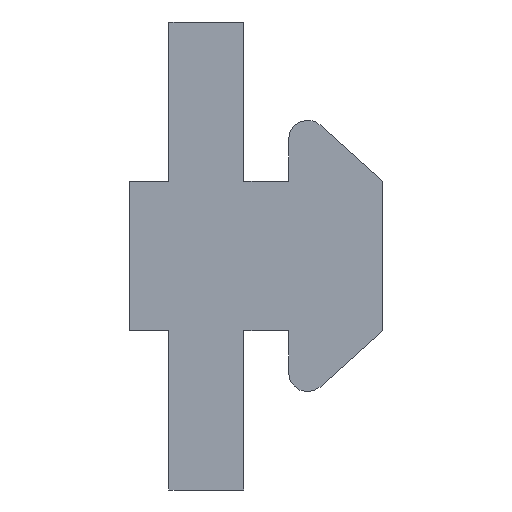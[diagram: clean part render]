
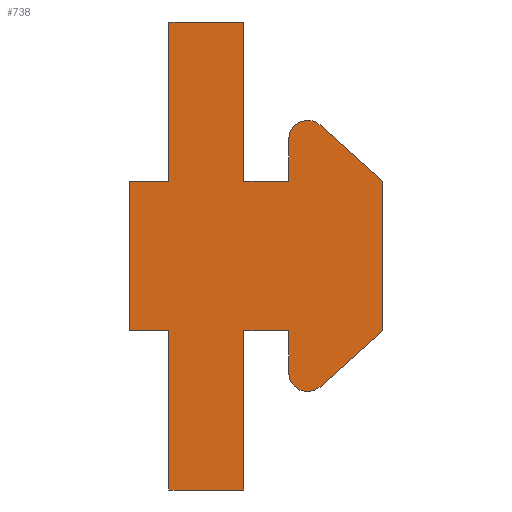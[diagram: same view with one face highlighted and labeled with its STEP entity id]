
A CAD part, left-side view. The second image highlights one B-rep face of the part: STEP entity #738.
In plain terms, the highlighted planar face has unit normal (-1, 0, 0).
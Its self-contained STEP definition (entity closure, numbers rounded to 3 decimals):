
#3 = ORIENTED_EDGE ( 'NONE', *, *, #319, .F. ) ;
#6 = VERTEX_POINT ( 'NONE', #583 ) ;
#14 = VECTOR ( 'NONE', #81, 1000. ) ;
#22 = DIRECTION ( 'NONE',  ( 0., -1., 0. ) ) ;
#25 = LINE ( 'NONE', #569, #374 ) ;
#32 = DIRECTION ( 'NONE',  ( 0., 0., 1. ) ) ;
#33 = VERTEX_POINT ( 'NONE', #667 ) ;
#43 = VERTEX_POINT ( 'NONE', #55 ) ;
#46 = DIRECTION ( 'NONE',  ( 0., 0., -1. ) ) ;
#50 = ORIENTED_EDGE ( 'NONE', *, *, #390, .F. ) ;
#55 = CARTESIAN_POINT ( 'NONE',  ( -960., -24., 12.5 ) ) ;
#60 = LINE ( 'NONE', #690, #541 ) ;
#64 = EDGE_CURVE ( 'NONE', #576, #446, #118, .T. ) ;
#81 = DIRECTION ( 'NONE',  ( 0., 0., 1. ) ) ;
#82 = ORIENTED_EDGE ( 'NONE', *, *, #636, .F. ) ;
#84 = DIRECTION ( 'NONE',  ( 0., 0., -1. ) ) ;
#87 = EDGE_CURVE ( 'NONE', #150, #576, #258, .T. ) ;
#93 = ORIENTED_EDGE ( 'NONE', *, *, #227, .F. ) ;
#101 = CARTESIAN_POINT ( 'NONE',  ( -960., -20., 12.5 ) ) ;
#104 = CARTESIAN_POINT ( 'NONE',  ( -960., -20., -4. ) ) ;
#105 = CARTESIAN_POINT ( 'NONE',  ( -960., -28.069, 6.998 ) ) ;
#109 = VERTEX_POINT ( 'NONE', #191 ) ;
#118 = LINE ( 'NONE', #340, #215 ) ;
#131 = CARTESIAN_POINT ( 'NONE',  ( -960., -24., -12.5 ) ) ;
#132 = DIRECTION ( 'NONE',  ( 0., 1., 0. ) ) ;
#145 = ORIENTED_EDGE ( 'NONE', *, *, #571, .F. ) ;
#146 = EDGE_CURVE ( 'NONE', #189, #109, #516, .T. ) ;
#147 = DIRECTION ( 'NONE',  ( 0., 0.743, -0.669 ) ) ;
#148 = CARTESIAN_POINT ( 'NONE',  ( -960., -26.4, -6.255 ) ) ;
#150 = VERTEX_POINT ( 'NONE', #414 ) ;
#161 = ORIENTED_EDGE ( 'NONE', *, *, #351, .F. ) ;
#162 = VECTOR ( 'NONE', #452, 1000. ) ;
#166 = ORIENTED_EDGE ( 'NONE', *, *, #389, .F. ) ;
#173 = DIRECTION ( 'NONE',  ( 1., 0., 0. ) ) ;
#179 = VERTEX_POINT ( 'NONE', #362 ) ;
#188 = VERTEX_POINT ( 'NONE', #148 ) ;
#189 = VERTEX_POINT ( 'NONE', #468 ) ;
#191 = CARTESIAN_POINT ( 'NONE',  ( -960., -20., 12.5 ) ) ;
#193 = ORIENTED_EDGE ( 'NONE', *, *, #259, .F. ) ;
#199 = VECTOR ( 'NONE', #262, 1000. ) ;
#214 = VERTEX_POINT ( 'NONE', #104 ) ;
#215 = VECTOR ( 'NONE', #619, 1000. ) ;
#220 = ORIENTED_EDGE ( 'NONE', *, *, #491, .F. ) ;
#222 = EDGE_CURVE ( 'NONE', #228, #33, #504, .T. ) ;
#227 = EDGE_CURVE ( 'NONE', #214, #697, #373, .T. ) ;
#228 = VERTEX_POINT ( 'NONE', #523 ) ;
#236 = EDGE_CURVE ( 'NONE', #577, #393, #281, .T. ) ;
#238 = LINE ( 'NONE', #341, #14 ) ;
#240 = CARTESIAN_POINT ( 'NONE',  ( -960., -24., -4. ) ) ;
#243 = VECTOR ( 'NONE', #350, 1000. ) ;
#244 = AXIS2_PLACEMENT_3D ( 'NONE', #402, #469, #280 ) ;
#251 = DIRECTION ( 'NONE',  ( 0., 0., -1. ) ) ;
#258 = LINE ( 'NONE', #497, #199 ) ;
#259 = EDGE_CURVE ( 'NONE', #43, #304, #638, .T. ) ;
#262 = DIRECTION ( 'NONE',  ( 0., 0., -1. ) ) ;
#275 = LINE ( 'NONE', #305, #286 ) ;
#280 = DIRECTION ( 'NONE',  ( 0., 0., 1. ) ) ;
#281 = LINE ( 'NONE', #723, #722 ) ;
#285 = DIRECTION ( 'NONE',  ( 0., 0., 1. ) ) ;
#286 = VECTOR ( 'NONE', #22, 1000. ) ;
#287 = EDGE_CURVE ( 'NONE', #304, #577, #275, .T. ) ;
#288 = DIRECTION ( 'NONE',  ( 0., 0., -1. ) ) ;
#294 = EDGE_CURVE ( 'NONE', #6, #425, #60, .T. ) ;
#302 = LINE ( 'NONE', #663, #736 ) ;
#304 = VERTEX_POINT ( 'NONE', #709 ) ;
#305 = CARTESIAN_POINT ( 'NONE',  ( -960., -24., 4. ) ) ;
#310 = CARTESIAN_POINT ( 'NONE',  ( -960., -17.9, 4. ) ) ;
#313 = CARTESIAN_POINT ( 'NONE',  ( -960., -26.4, -4. ) ) ;
#319 = EDGE_CURVE ( 'NONE', #179, #6, #25, .T. ) ;
#332 = DIRECTION ( 'NONE',  ( 0., 0., 1. ) ) ;
#335 = DIRECTION ( 'NONE',  ( 0., 0., 1. ) ) ;
#336 = CIRCLE ( 'NONE', #588, 1. ) ;
#340 = CARTESIAN_POINT ( 'NONE',  ( -960., -20., -12.5 ) ) ;
#341 = CARTESIAN_POINT ( 'NONE',  ( -960., -20., -4. ) ) ;
#342 = ORIENTED_EDGE ( 'NONE', *, *, #287, .F. ) ;
#348 = DIRECTION ( 'NONE',  ( 0., -1., 0. ) ) ;
#350 = DIRECTION ( 'NONE',  ( 0., 1., 0. ) ) ;
#351 = EDGE_CURVE ( 'NONE', #33, #179, #570, .T. ) ;
#352 = VERTEX_POINT ( 'NONE', #310 ) ;
#357 = CARTESIAN_POINT ( 'NONE',  ( -960., -17.9, 4. ) ) ;
#359 = EDGE_LOOP ( 'NONE', ( #93, #82, #388, #589, #508, #50, #166, #430, #3, #161, #546, #145, #462, #342, #193, #574, #614, #705, #220 ) ) ;
#362 = CARTESIAN_POINT ( 'NONE',  ( -960., -31.4, 4. ) ) ;
#366 = CARTESIAN_POINT ( 'NONE',  ( -960., -26.4, 6.255 ) ) ;
#373 = LINE ( 'NONE', #692, #243 ) ;
#374 = VECTOR ( 'NONE', #84, 1000. ) ;
#379 = AXIS2_PLACEMENT_3D ( 'NONE', #698, #440, #285 ) ;
#388 = ORIENTED_EDGE ( 'NONE', *, *, #64, .F. ) ;
#389 = EDGE_CURVE ( 'NONE', #425, #188, #336, .T. ) ;
#390 = EDGE_CURVE ( 'NONE', #188, #607, #604, .T. ) ;
#393 = VERTEX_POINT ( 'NONE', #366 ) ;
#402 = CARTESIAN_POINT ( 'NONE',  ( -960., -27.4, 6.255 ) ) ;
#404 = CIRCLE ( 'NONE', #244, 1. ) ;
#407 = VECTOR ( 'NONE', #620, 1000. ) ;
#411 = DIRECTION ( 'NONE',  ( 0., -1., 0. ) ) ;
#414 = CARTESIAN_POINT ( 'NONE',  ( -960., -24., -4. ) ) ;
#418 = DIRECTION ( 'NONE',  ( 1., 0., 0. ) ) ;
#425 = VERTEX_POINT ( 'NONE', #587 ) ;
#428 = AXIS2_PLACEMENT_3D ( 'NONE', #714, #418, #251 ) ;
#430 = ORIENTED_EDGE ( 'NONE', *, *, #294, .F. ) ;
#440 = DIRECTION ( 'NONE',  ( 1., 0., 0. ) ) ;
#445 = CARTESIAN_POINT ( 'NONE',  ( -960., -24., 12.5 ) ) ;
#446 = VERTEX_POINT ( 'NONE', #539 ) ;
#448 = VECTOR ( 'NONE', #132, 1000. ) ;
#452 = DIRECTION ( 'NONE',  ( 0., -0.743, -0.669 ) ) ;
#462 = ORIENTED_EDGE ( 'NONE', *, *, #236, .F. ) ;
#468 = CARTESIAN_POINT ( 'NONE',  ( -960., -20., 4. ) ) ;
#469 = DIRECTION ( 'NONE',  ( 1., 0., 0. ) ) ;
#489 = CARTESIAN_POINT ( 'NONE',  ( -960., -20., 4. ) ) ;
#491 = EDGE_CURVE ( 'NONE', #697, #352, #550, .T. ) ;
#497 = CARTESIAN_POINT ( 'NONE',  ( -960., -24., -12.5 ) ) ;
#504 = CIRCLE ( 'NONE', #379, 1. ) ;
#507 = CARTESIAN_POINT ( 'NONE',  ( -960., -26.4, -4. ) ) ;
#508 = ORIENTED_EDGE ( 'NONE', *, *, #728, .F. ) ;
#510 = EDGE_CURVE ( 'NONE', #352, #189, #302, .T. ) ;
#516 = LINE ( 'NONE', #489, #652 ) ;
#523 = CARTESIAN_POINT ( 'NONE',  ( -960., -27.4, 7.255 ) ) ;
#539 = CARTESIAN_POINT ( 'NONE',  ( -960., -20., -12.5 ) ) ;
#541 = VECTOR ( 'NONE', #147, 1000. ) ;
#546 = ORIENTED_EDGE ( 'NONE', *, *, #222, .F. ) ;
#549 = VECTOR ( 'NONE', #288, 1000. ) ;
#550 = LINE ( 'NONE', #357, #682 ) ;
#557 = CARTESIAN_POINT ( 'NONE',  ( -960., -17.9, -4. ) ) ;
#558 = EDGE_CURVE ( 'NONE', #109, #43, #703, .T. ) ;
#563 = PLANE ( 'NONE',  #428 ) ;
#569 = CARTESIAN_POINT ( 'NONE',  ( -960., -31.4, -4. ) ) ;
#570 = LINE ( 'NONE', #105, #162 ) ;
#571 = EDGE_CURVE ( 'NONE', #393, #228, #404, .T. ) ;
#574 = ORIENTED_EDGE ( 'NONE', *, *, #558, .F. ) ;
#576 = VERTEX_POINT ( 'NONE', #131 ) ;
#577 = VERTEX_POINT ( 'NONE', #732 ) ;
#583 = CARTESIAN_POINT ( 'NONE',  ( -960., -31.4, -4. ) ) ;
#587 = CARTESIAN_POINT ( 'NONE',  ( -960., -28.069, -6.998 ) ) ;
#588 = AXIS2_PLACEMENT_3D ( 'NONE', #686, #173, #46 ) ;
#589 = ORIENTED_EDGE ( 'NONE', *, *, #87, .F. ) ;
#593 = VECTOR ( 'NONE', #411, 1000. ) ;
#604 = LINE ( 'NONE', #507, #407 ) ;
#607 = VERTEX_POINT ( 'NONE', #313 ) ;
#614 = ORIENTED_EDGE ( 'NONE', *, *, #146, .F. ) ;
#618 = LINE ( 'NONE', #240, #448 ) ;
#619 = DIRECTION ( 'NONE',  ( 0., 1., 0. ) ) ;
#620 = DIRECTION ( 'NONE',  ( 0., 0., 1. ) ) ;
#636 = EDGE_CURVE ( 'NONE', #446, #214, #238, .T. ) ;
#638 = LINE ( 'NONE', #445, #549 ) ;
#645 = FACE_OUTER_BOUND ( 'NONE', #359, .T. ) ;
#652 = VECTOR ( 'NONE', #32, 1000. ) ;
#663 = CARTESIAN_POINT ( 'NONE',  ( -960., -17.9, 4. ) ) ;
#667 = CARTESIAN_POINT ( 'NONE',  ( -960., -28.069, 6.998 ) ) ;
#682 = VECTOR ( 'NONE', #335, 1000. ) ;
#686 = CARTESIAN_POINT ( 'NONE',  ( -960., -27.4, -6.255 ) ) ;
#690 = CARTESIAN_POINT ( 'NONE',  ( -960., -28.069, -6.998 ) ) ;
#692 = CARTESIAN_POINT ( 'NONE',  ( -960., -17.9, -4. ) ) ;
#697 = VERTEX_POINT ( 'NONE', #557 ) ;
#698 = CARTESIAN_POINT ( 'NONE',  ( -960., -27.4, 6.255 ) ) ;
#703 = LINE ( 'NONE', #101, #593 ) ;
#705 = ORIENTED_EDGE ( 'NONE', *, *, #510, .F. ) ;
#709 = CARTESIAN_POINT ( 'NONE',  ( -960., -24., 4. ) ) ;
#714 = CARTESIAN_POINT ( 'NONE',  ( -960., -30., -6.255 ) ) ;
#722 = VECTOR ( 'NONE', #332, 1000. ) ;
#723 = CARTESIAN_POINT ( 'NONE',  ( -960., -26.4, 4. ) ) ;
#728 = EDGE_CURVE ( 'NONE', #607, #150, #618, .T. ) ;
#732 = CARTESIAN_POINT ( 'NONE',  ( -960., -26.4, 4. ) ) ;
#736 = VECTOR ( 'NONE', #348, 1000. ) ;
#738 = ADVANCED_FACE ( 'NONE', ( #645 ), #563, .F. ) ;
